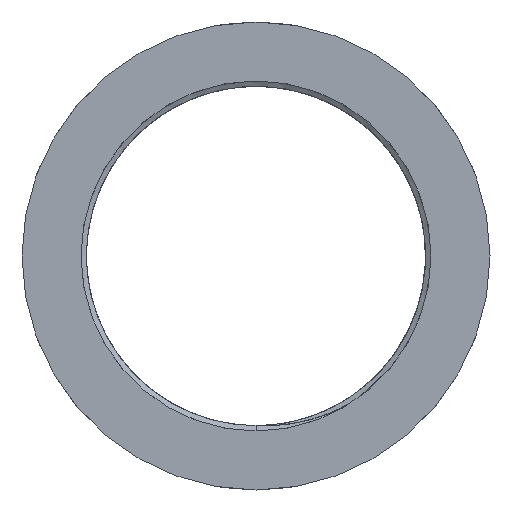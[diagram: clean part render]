
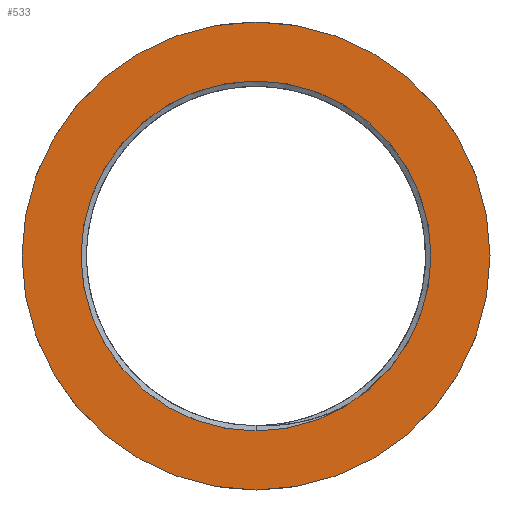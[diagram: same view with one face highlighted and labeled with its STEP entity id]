
A CAD part, front view. The second image highlights one B-rep face of the part: STEP entity #533.
In plain terms, the highlighted planar face has unit normal (0, -1, 0).
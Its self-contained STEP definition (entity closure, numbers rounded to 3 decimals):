
#193 = FACE_BOUND ( 'NONE', #2571, .T. ) ;
#533 = ADVANCED_FACE ( 'NONE', ( #942, #193 ), #2620, .F. ) ;
#659 = AXIS2_PLACEMENT_3D ( 'NONE', #2164, #2521, #1201 ) ;
#914 = DIRECTION ( 'NONE',  ( 0., 0., 1. ) ) ;
#942 = FACE_OUTER_BOUND ( 'NONE', #1853, .T. ) ;
#1145 = CIRCLE ( 'NONE', #2869, 35. ) ;
#1201 = DIRECTION ( 'NONE',  ( 0., 0., 1. ) ) ;
#1282 = VERTEX_POINT ( 'NONE', #2644 ) ;
#1750 = EDGE_CURVE ( 'NONE', #1282, #1282, #1145, .T. ) ;
#1853 = EDGE_LOOP ( 'NONE', ( #2035 ) ) ;
#2035 = ORIENTED_EDGE ( 'NONE', *, *, #1750, .F. ) ;
#2164 = CARTESIAN_POINT ( 'NONE',  ( 0., 0., 0. ) ) ;
#2521 = DIRECTION ( 'NONE',  ( 0., 1., 0. ) ) ;
#2571 = EDGE_LOOP ( 'NONE', ( #3360 ) ) ;
#2620 = PLANE ( 'NONE',  #2652 ) ;
#2644 = CARTESIAN_POINT ( 'NONE',  ( 0., 0., 35. ) ) ;
#2652 = AXIS2_PLACEMENT_3D ( 'NONE', #3002, #2981, #914 ) ;
#2811 = EDGE_CURVE ( 'NONE', #4000, #4000, #2872, .T. ) ;
#2869 = AXIS2_PLACEMENT_3D ( 'NONE', #3258, #3587, #4217 ) ;
#2872 = CIRCLE ( 'NONE', #659, 26.175 ) ;
#2981 = DIRECTION ( 'NONE',  ( 0., 1., 0. ) ) ;
#3002 = CARTESIAN_POINT ( 'NONE',  ( 0., 0., 0. ) ) ;
#3258 = CARTESIAN_POINT ( 'NONE',  ( 0., 0., 0. ) ) ;
#3360 = ORIENTED_EDGE ( 'NONE', *, *, #2811, .T. ) ;
#3587 = DIRECTION ( 'NONE',  ( 0., 1., 0. ) ) ;
#4000 = VERTEX_POINT ( 'NONE', #4268 ) ;
#4217 = DIRECTION ( 'NONE',  ( 0., 0., 1. ) ) ;
#4268 = CARTESIAN_POINT ( 'NONE',  ( 0., 0., 26.175 ) ) ;
